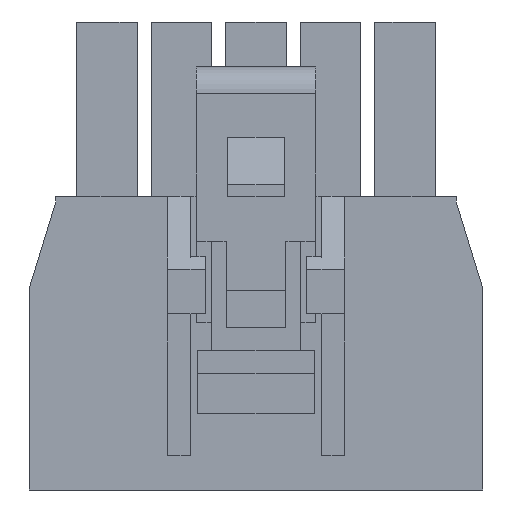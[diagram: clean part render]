
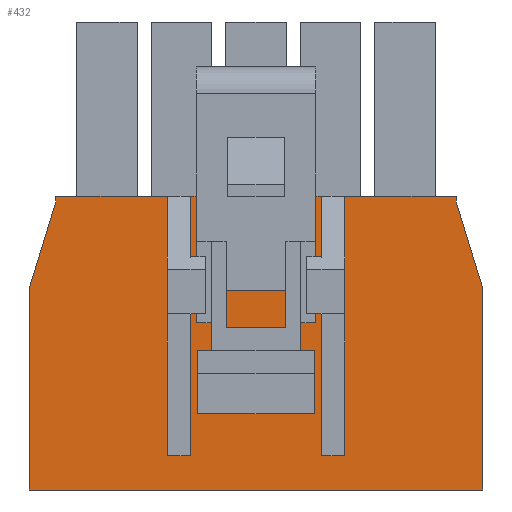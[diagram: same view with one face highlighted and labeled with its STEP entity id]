
A CAD part, front view. The second image highlights one B-rep face of the part: STEP entity #432.
In plain terms, the highlighted planar face has unit normal (0, -1, 0).
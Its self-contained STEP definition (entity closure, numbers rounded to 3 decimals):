
#65=FACE_OUTER_BOUND('',#1252,.T.);
#432=ADVANCED_FACE('',(#65),#811,.T.);
#811=PLANE('',#7511);
#1252=EDGE_LOOP('',(#1886,#1887,#1888,#1889,#1890,#1891,#1892,#1893,#1894,
#1895,#1896,#1897,#1898,#1899,#1900,#1901,#1902,#1903,#1904,#1905));
#1886=ORIENTED_EDGE('',*,*,#4617,.T.);
#1887=ORIENTED_EDGE('',*,*,#4640,.F.);
#1888=ORIENTED_EDGE('',*,*,#4418,.T.);
#1889=ORIENTED_EDGE('',*,*,#4641,.F.);
#1890=ORIENTED_EDGE('',*,*,#4642,.T.);
#1891=ORIENTED_EDGE('',*,*,#4643,.T.);
#1892=ORIENTED_EDGE('',*,*,#4414,.T.);
#1893=ORIENTED_EDGE('',*,*,#4644,.T.);
#1894=ORIENTED_EDGE('',*,*,#4615,.T.);
#1895=ORIENTED_EDGE('',*,*,#4645,.T.);
#1896=ORIENTED_EDGE('',*,*,#4426,.T.);
#1897=ORIENTED_EDGE('',*,*,#4646,.T.);
#1898=ORIENTED_EDGE('',*,*,#4647,.T.);
#1899=ORIENTED_EDGE('',*,*,#4648,.T.);
#1900=ORIENTED_EDGE('',*,*,#4545,.T.);
#1901=ORIENTED_EDGE('',*,*,#4649,.T.);
#1902=ORIENTED_EDGE('',*,*,#4650,.T.);
#1903=ORIENTED_EDGE('',*,*,#4651,.T.);
#1904=ORIENTED_EDGE('',*,*,#4422,.T.);
#1905=ORIENTED_EDGE('',*,*,#4652,.F.);
#3722=VERTEX_POINT('',#9732);
#3723=VERTEX_POINT('',#9733);
#3726=VERTEX_POINT('',#9739);
#3727=VERTEX_POINT('',#9741);
#3730=VERTEX_POINT('',#9747);
#3731=VERTEX_POINT('',#9749);
#3734=VERTEX_POINT('',#9755);
#3735=VERTEX_POINT('',#9757);
#3851=VERTEX_POINT('',#9994);
#3852=VERTEX_POINT('',#9996);
#3912=VERTEX_POINT('',#10132);
#3914=VERTEX_POINT('',#10136);
#3915=VERTEX_POINT('',#10140);
#3917=VERTEX_POINT('',#10143);
#3933=VERTEX_POINT('',#10189);
#3934=VERTEX_POINT('',#10191);
#3935=VERTEX_POINT('',#10196);
#3936=VERTEX_POINT('',#10198);
#3937=VERTEX_POINT('',#10201);
#3938=VERTEX_POINT('',#10203);
#4414=EDGE_CURVE('',#3722,#3723,#5453,.T.);
#4418=EDGE_CURVE('',#3727,#3726,#5457,.T.);
#4422=EDGE_CURVE('',#3731,#3730,#5461,.T.);
#4426=EDGE_CURVE('',#3735,#3734,#5465,.T.);
#4545=EDGE_CURVE('',#3852,#3851,#5584,.T.);
#4615=EDGE_CURVE('',#3912,#3914,#5654,.T.);
#4617=EDGE_CURVE('',#3917,#3915,#5656,.T.);
#4640=EDGE_CURVE('',#3727,#3915,#5679,.T.);
#4641=EDGE_CURVE('',#3933,#3726,#5680,.T.);
#4642=EDGE_CURVE('',#3933,#3934,#5681,.T.);
#4643=EDGE_CURVE('',#3934,#3722,#5682,.T.);
#4644=EDGE_CURVE('',#3723,#3912,#5683,.T.);
#4645=EDGE_CURVE('',#3914,#3735,#5684,.T.);
#4646=EDGE_CURVE('',#3734,#3935,#5685,.T.);
#4647=EDGE_CURVE('',#3935,#3936,#5686,.T.);
#4648=EDGE_CURVE('',#3936,#3852,#5687,.T.);
#4649=EDGE_CURVE('',#3851,#3937,#5688,.T.);
#4650=EDGE_CURVE('',#3937,#3938,#5689,.T.);
#4651=EDGE_CURVE('',#3938,#3731,#5690,.T.);
#4652=EDGE_CURVE('',#3917,#3730,#5691,.T.);
#5453=LINE('',#9731,#6482);
#5457=LINE('',#9740,#6486);
#5461=LINE('',#9748,#6490);
#5465=LINE('',#9756,#6494);
#5584=LINE('',#9995,#6613);
#5654=LINE('',#10137,#6683);
#5656=LINE('',#10142,#6685);
#5679=LINE('',#10187,#6708);
#5680=LINE('',#10188,#6709);
#5681=LINE('',#10190,#6710);
#5682=LINE('',#10192,#6711);
#5683=LINE('',#10193,#6712);
#5684=LINE('',#10194,#6713);
#5685=LINE('',#10195,#6714);
#5686=LINE('',#10197,#6715);
#5687=LINE('',#10199,#6716);
#5688=LINE('',#10200,#6717);
#5689=LINE('',#10202,#6718);
#5690=LINE('',#10204,#6719);
#5691=LINE('',#10205,#6720);
#6482=VECTOR('',#7903,1.);
#6486=VECTOR('',#7907,1.);
#6490=VECTOR('',#7911,1.);
#6494=VECTOR('',#7915,1.);
#6613=VECTOR('',#8040,1.);
#6683=VECTOR('',#8128,1.);
#6685=VECTOR('',#8132,1.);
#6708=VECTOR('',#8167,1.);
#6709=VECTOR('',#8168,1.);
#6710=VECTOR('',#8169,1.);
#6711=VECTOR('',#8170,1.);
#6712=VECTOR('',#8171,1.);
#6713=VECTOR('',#8172,1.);
#6714=VECTOR('',#8173,1.);
#6715=VECTOR('',#8174,1.);
#6716=VECTOR('',#8175,1.);
#6717=VECTOR('',#8176,1.);
#6718=VECTOR('',#8177,1.);
#6719=VECTOR('',#8178,1.);
#6720=VECTOR('',#8179,1.);
#7511=AXIS2_PLACEMENT_3D('',#10206,#8180,#8181);
#7903=DIRECTION('',(-1.,0.,0.));
#7907=DIRECTION('',(-1.,0.,0.));
#7911=DIRECTION('',(-1.,0.,0.));
#7915=DIRECTION('',(-1.,0.,0.));
#8040=DIRECTION('',(1.,0.,0.));
#8128=DIRECTION('',(-1.,0.,0.));
#8132=DIRECTION('',(-1.,0.,0.));
#8167=DIRECTION('',(0.,0.,-1.));
#8168=DIRECTION('',(0.,0.,-1.));
#8169=DIRECTION('',(-1.,0.,0.));
#8170=DIRECTION('',(0.,0.,-1.));
#8171=DIRECTION('',(0.,0.,-1.));
#8172=DIRECTION('',(0.,0.,1.));
#8173=DIRECTION('',(0.,0.,-1.));
#8174=DIRECTION('',(-0.294,0.,-0.956));
#8175=DIRECTION('',(0.,0.,-1.));
#8176=DIRECTION('',(0.,0.,1.));
#8177=DIRECTION('',(-0.294,0.,0.956));
#8178=DIRECTION('',(0.,0.,1.));
#8179=DIRECTION('',(0.,0.,1.));
#8180=DIRECTION('',(0.,-1.,0.));
#8181=DIRECTION('',(0.,0.,-1.));
#9731=CARTESIAN_POINT('',(-1.593,8.89,-5.615));
#9732=CARTESIAN_POINT('',(-1.393,8.89,-5.615));
#9733=CARTESIAN_POINT('',(-1.593,8.89,-5.615));
#9739=CARTESIAN_POINT('',(2.607,8.89,-5.615));
#9740=CARTESIAN_POINT('',(-1.593,8.89,-5.615));
#9741=CARTESIAN_POINT('',(2.807,8.89,-5.615));
#9747=CARTESIAN_POINT('',(3.577,8.89,-5.615));
#9748=CARTESIAN_POINT('',(7.327,8.89,-5.615));
#9749=CARTESIAN_POINT('',(7.327,8.89,-5.615));
#9755=CARTESIAN_POINT('',(-6.113,8.89,-5.615));
#9756=CARTESIAN_POINT('',(7.327,8.89,-5.615));
#9757=CARTESIAN_POINT('',(-2.363,8.89,-5.615));
#9994=CARTESIAN_POINT('',(8.207,8.89,-15.465));
#9995=CARTESIAN_POINT('',(-6.113,8.89,-15.465));
#9996=CARTESIAN_POINT('',(-6.993,8.89,-15.465));
#10132=CARTESIAN_POINT('',(-1.593,8.89,-14.315));
#10136=CARTESIAN_POINT('',(-2.363,8.89,-14.315));
#10137=CARTESIAN_POINT('',(3.577,8.89,-14.315));
#10140=CARTESIAN_POINT('',(2.807,8.89,-14.315));
#10142=CARTESIAN_POINT('',(3.577,8.89,-14.315));
#10143=CARTESIAN_POINT('',(3.577,8.89,-14.315));
#10187=CARTESIAN_POINT('',(2.807,8.89,-4.745));
#10188=CARTESIAN_POINT('',(2.607,8.89,-2.665));
#10189=CARTESIAN_POINT('',(2.607,8.89,-2.665));
#10190=CARTESIAN_POINT('',(2.607,8.89,-2.665));
#10191=CARTESIAN_POINT('',(-1.393,8.89,-2.665));
#10192=CARTESIAN_POINT('',(-1.393,8.89,-2.665));
#10193=CARTESIAN_POINT('',(-1.593,8.89,-4.745));
#10194=CARTESIAN_POINT('',(-2.363,8.89,-14.315));
#10195=CARTESIAN_POINT('',(-6.113,8.89,-5.615));
#10196=CARTESIAN_POINT('',(-6.113,8.89,-5.805));
#10197=CARTESIAN_POINT('',(-6.113,8.89,-5.805));
#10198=CARTESIAN_POINT('',(-6.993,8.89,-8.665));
#10199=CARTESIAN_POINT('',(-6.993,8.89,-8.665));
#10200=CARTESIAN_POINT('',(8.207,8.89,-15.465));
#10201=CARTESIAN_POINT('',(8.207,8.89,-8.665));
#10202=CARTESIAN_POINT('',(8.207,8.89,-8.665));
#10203=CARTESIAN_POINT('',(7.327,8.89,-5.805));
#10204=CARTESIAN_POINT('',(7.327,8.89,-15.465));
#10205=CARTESIAN_POINT('',(3.577,8.89,-14.315));
#10206=CARTESIAN_POINT('',(0.,8.89,0.));
